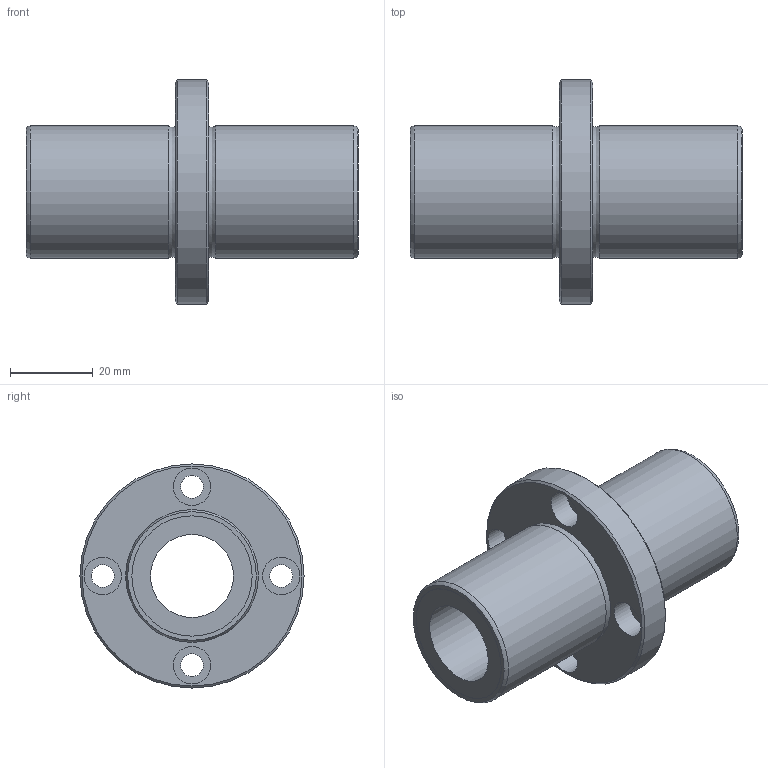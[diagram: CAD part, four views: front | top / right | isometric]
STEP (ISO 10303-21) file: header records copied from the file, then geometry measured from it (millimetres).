
FILE_DESCRIPTION((''),'2;1');
FILE_NAME('D:\製品 (図面)\カタログ用3D\リニアベアリング関連\STEP形式\LFDC\LFDC20.stp','2010-06-03T09:27:48',('Tsuchiya'),(''),'Autodesk Inventor 10','Autodesk Inventor 10','');
FILE_SCHEMA(('AUTOMOTIVE_DESIGN { 1 0 10303 214 1 1 1 1 }'));
Length unit declared in the file: millimetre
Products named in the file (1): LFDC20
Bounding box: 80 x 54 x 54 mm (x, y, z)
Volume: 49230.9 mm3; surface area: 18062.7 mm2
Topology: 1 solids, 1 shells, 30 faces, 54 edges, 34 vertices
Faces by surface type: cylinder 14, plane 10, cone 2, torus 2, bspline 2
Full cylindrical faces by diameter (mm): 5.5 x4, 9 x4, 20 x1, 29 x2, 32 x2, 54 x1
Entity records: 803 total; most frequent: CARTESIAN_POINT 223, DIRECTION 126, ORIENTED_EDGE 68, EDGE_LOOP 68, AXIS2_PLACEMENT_3D 63, FACE_BOUND 38, VERTEX_POINT 34, CIRCLE 34
